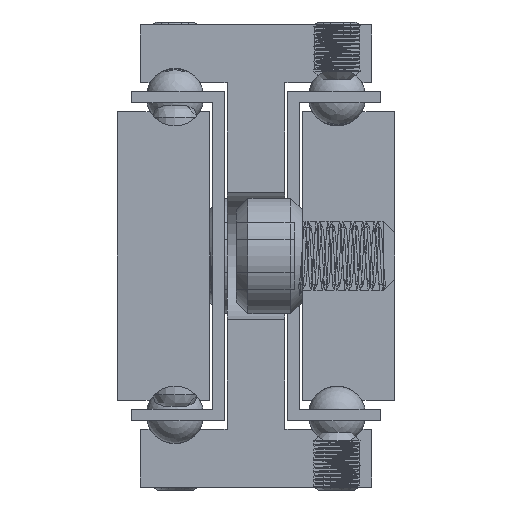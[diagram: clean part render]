
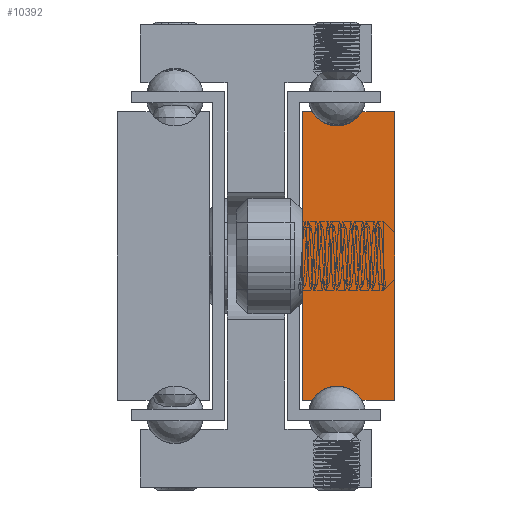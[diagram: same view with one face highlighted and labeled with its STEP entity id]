
A CAD part, front view. The second image highlights one B-rep face of the part: STEP entity #10392.
In plain terms, the highlighted planar face has unit normal (0, -1, 0).
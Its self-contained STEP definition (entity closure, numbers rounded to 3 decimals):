
#972=LINE('',#16006,#1902);
#976=LINE('',#16014,#1906);
#980=LINE('',#16026,#1910);
#983=LINE('',#16032,#1913);
#986=LINE('',#16038,#1916);
#990=LINE('',#16049,#1920);
#1902=VECTOR('',#13344,1.);
#1906=VECTOR('',#13350,1.);
#1910=VECTOR('',#13362,1.);
#1913=VECTOR('',#13367,1.);
#1916=VECTOR('',#13372,1.);
#1920=VECTOR('',#13384,1.);
#2446=PLANE('',#11290);
#3466=FACE_OUTER_BOUND('',#4270,.T.);
#4270=EDGE_LOOP('',(#6262,#6263,#6264,#6265,#6266,#6267,#6268,#6269));
#6262=ORIENTED_EDGE('',*,*,#8144,.T.);
#6263=ORIENTED_EDGE('',*,*,#8122,.T.);
#6264=ORIENTED_EDGE('',*,*,#8126,.T.);
#6265=ORIENTED_EDGE('',*,*,#8129,.T.);
#6266=ORIENTED_EDGE('',*,*,#8132,.T.);
#6267=ORIENTED_EDGE('',*,*,#8135,.T.);
#6268=ORIENTED_EDGE('',*,*,#8138,.T.);
#6269=ORIENTED_EDGE('',*,*,#8141,.T.);
#8122=EDGE_CURVE('',#9326,#9327,#972,.T.);
#8126=EDGE_CURVE('',#9327,#9330,#976,.T.);
#8129=EDGE_CURVE('',#9330,#9332,#9860,.T.);
#8132=EDGE_CURVE('',#9332,#9334,#980,.T.);
#8135=EDGE_CURVE('',#9334,#9336,#983,.T.);
#8138=EDGE_CURVE('',#9336,#9338,#986,.T.);
#8141=EDGE_CURVE('',#9338,#9340,#9862,.T.);
#8144=EDGE_CURVE('',#9340,#9326,#990,.T.);
#9326=VERTEX_POINT('',#16004);
#9327=VERTEX_POINT('',#16005);
#9330=VERTEX_POINT('',#16013);
#9332=VERTEX_POINT('',#16019);
#9334=VERTEX_POINT('',#16025);
#9336=VERTEX_POINT('',#16031);
#9338=VERTEX_POINT('',#16037);
#9340=VERTEX_POINT('',#16043);
#9860=CIRCLE('',#11281,2.5);
#9862=CIRCLE('',#11287,2.5);
#10392=ADVANCED_FACE('',(#3466),#2446,.F.);
#11281=AXIS2_PLACEMENT_3D('',#16020,#13355,#13356);
#11287=AXIS2_PLACEMENT_3D('',#16044,#13377,#13378);
#11290=AXIS2_PLACEMENT_3D('',#16051,#13386,#13387);
#13344=DIRECTION('',(0.,0.,1.));
#13350=DIRECTION('',(-1.,0.,0.));
#13355=DIRECTION('center_axis',(0.,1.,0.));
#13356=DIRECTION('ref_axis',(0.866,0.,-0.5));
#13362=DIRECTION('',(-1.,0.,0.));
#13367=DIRECTION('',(0.,0.,-1.));
#13372=DIRECTION('',(1.,0.,0.));
#13377=DIRECTION('center_axis',(0.,1.,0.));
#13378=DIRECTION('ref_axis',(-0.866,0.,0.5));
#13384=DIRECTION('',(1.,0.,0.));
#13386=DIRECTION('center_axis',(0.,1.,0.));
#13387=DIRECTION('ref_axis',(-1.,0.,0.));
#16004=CARTESIAN_POINT('',(2772.794,472.384,487.5));
#16005=CARTESIAN_POINT('',(2772.794,472.384,512.5));
#16006=CARTESIAN_POINT('',(2772.794,472.384,487.5));
#16013=CARTESIAN_POINT('',(2769.959,472.384,512.5));
#16014=CARTESIAN_POINT('',(2772.794,472.384,512.5));
#16019=CARTESIAN_POINT('',(2765.629,472.384,512.5));
#16020=CARTESIAN_POINT('Origin',(2767.794,472.384,513.75));
#16025=CARTESIAN_POINT('',(2764.794,472.384,512.5));
#16026=CARTESIAN_POINT('',(2765.629,472.384,512.5));
#16031=CARTESIAN_POINT('',(2764.794,472.384,487.5));
#16032=CARTESIAN_POINT('',(2764.794,472.384,512.5));
#16037=CARTESIAN_POINT('',(2765.629,472.384,487.5));
#16038=CARTESIAN_POINT('',(2764.794,472.384,487.5));
#16043=CARTESIAN_POINT('',(2769.959,472.384,487.5));
#16044=CARTESIAN_POINT('Origin',(2767.794,472.384,486.25));
#16049=CARTESIAN_POINT('',(2769.959,472.384,487.5));
#16051=CARTESIAN_POINT('Origin',(2768.806,472.384,500.));
